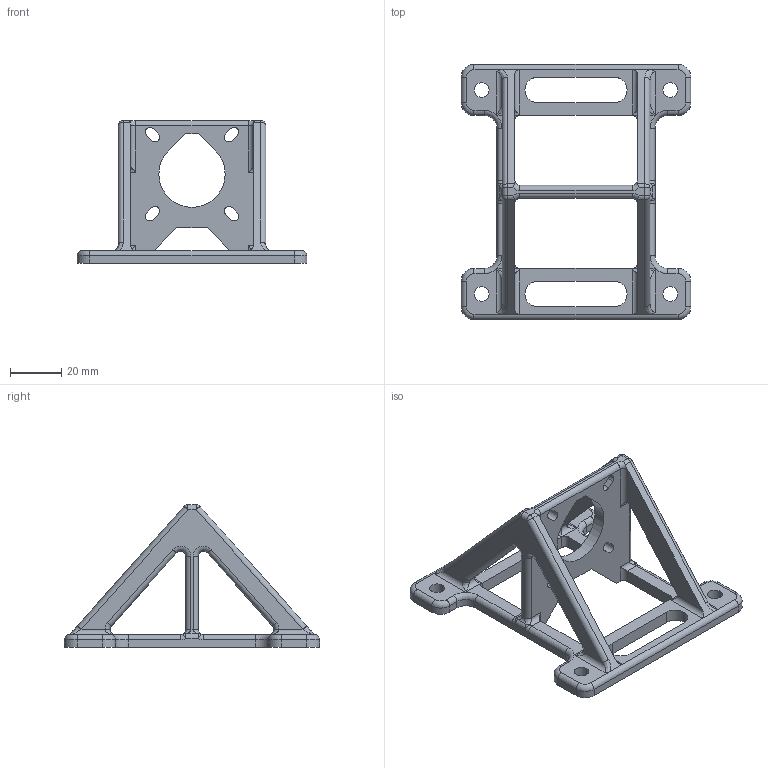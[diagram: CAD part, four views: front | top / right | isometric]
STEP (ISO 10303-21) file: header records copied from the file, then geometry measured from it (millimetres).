
FILE_DESCRIPTION (( 'STEP AP203' ), '1' );
FILE_NAME ('Z MOTOR MOUNT.STEP', '2012-08-20T19:20:37', ( '' ), ( '' ), 'SwSTEP 2.0', 'SolidWorks 2012', '' );
FILE_SCHEMA (( 'CONFIG_CONTROL_DESIGN' ));
Length unit declared in the file: millimetre
Products named in the file (1): Z MOTOR MOUNT
Bounding box: 90 x 100 x 56 mm (x, y, z)
Volume: 39895.8 mm3; surface area: 22845.9 mm2
Topology: 1 solids, 1 shells, 219 faces, 584 edges, 352 vertices
Faces by surface type: cylinder 115, plane 56, torus 28, bspline 12, sphere 8
Entity records: 7349 total; most frequent: CARTESIAN_POINT 1828, DIRECTION 1170, ORIENTED_EDGE 1160, EDGE_CURVE 580, AXIS2_PLACEMENT_3D 438, VERTEX_POINT 352, VECTOR 294, LINE 294
